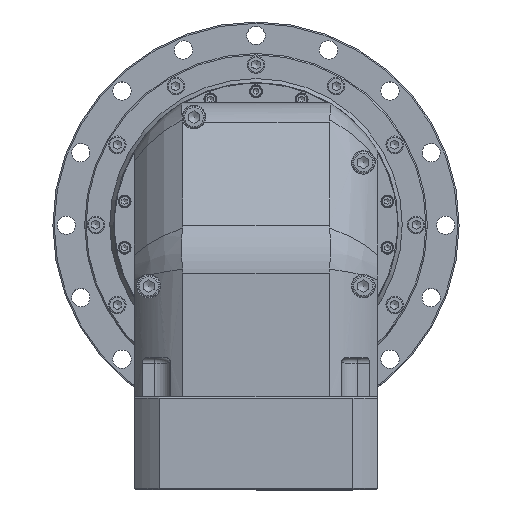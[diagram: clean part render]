
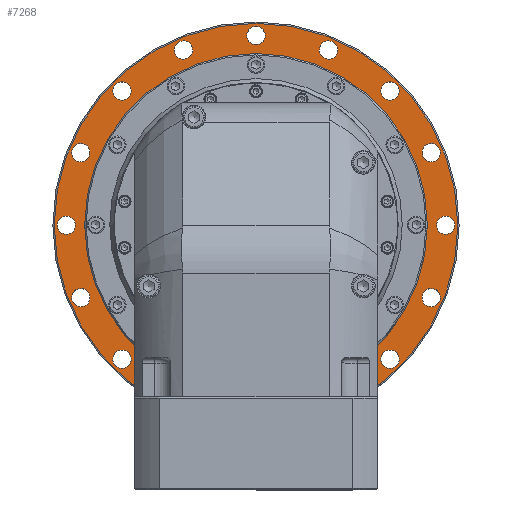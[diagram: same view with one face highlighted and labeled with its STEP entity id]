
A CAD part, top view. The second image highlights one B-rep face of the part: STEP entity #7268.
In plain terms, the highlighted planar face has unit normal (0, 0, 1).
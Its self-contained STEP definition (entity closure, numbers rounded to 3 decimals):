
#6511=CARTESIAN_POINT('',(-6.75,140.0,84.0));
#6512=VERTEX_POINT('',#6511);
#6513=CARTESIAN_POINT('',(0.0,140.0,84.0));
#6514=DIRECTION('',(0.0,0.0,-1.0));
#6515=DIRECTION('',(1.0,0.0,0.0));
#6516=AXIS2_PLACEMENT_3D('',#6513,#6514,#6515);
#6517=CIRCLE('',#6516,6.75);
#6518=EDGE_CURVE('',#6512,#6512,#6517,.T.);
#6539=CARTESIAN_POINT('',(-59.812,126.76,84.0));
#6540=VERTEX_POINT('',#6539);
#6541=CARTESIAN_POINT('',(-53.576,129.343,84.0));
#6542=DIRECTION('',(0.0,0.0,-1.0));
#6543=DIRECTION('',(0.924,0.383,0.0));
#6544=AXIS2_PLACEMENT_3D('',#6541,#6542,#6543);
#6545=CIRCLE('',#6544,6.75);
#6546=EDGE_CURVE('',#6540,#6540,#6545,.T.);
#6567=CARTESIAN_POINT('',(-103.768,94.222,84.0));
#6568=VERTEX_POINT('',#6567);
#6569=CARTESIAN_POINT('',(-98.995,98.995,84.0));
#6570=DIRECTION('',(0.0,0.0,-1.0));
#6571=DIRECTION('',(0.707,0.707,0.0));
#6572=AXIS2_PLACEMENT_3D('',#6569,#6570,#6571);
#6573=CIRCLE('',#6572,6.75);
#6574=EDGE_CURVE('',#6568,#6568,#6573,.T.);
#6595=CARTESIAN_POINT('',(-131.926,47.339,84.0));
#6596=VERTEX_POINT('',#6595);
#6597=CARTESIAN_POINT('',(-129.343,53.576,84.0));
#6598=DIRECTION('',(0.0,0.0,-1.0));
#6599=DIRECTION('',(0.383,0.924,0.0));
#6600=AXIS2_PLACEMENT_3D('',#6597,#6598,#6599);
#6601=CIRCLE('',#6600,6.75);
#6602=EDGE_CURVE('',#6596,#6596,#6601,.T.);
#6623=CARTESIAN_POINT('',(-140.0,-6.75,84.0));
#6624=VERTEX_POINT('',#6623);
#6625=CARTESIAN_POINT('',(-140.,0.,84.0));
#6626=DIRECTION('',(0.0,0.0,-1.0));
#6627=DIRECTION('',(0.0,1.0,0.0));
#6628=AXIS2_PLACEMENT_3D('',#6625,#6626,#6627);
#6629=CIRCLE('',#6628,6.75);
#6630=EDGE_CURVE('',#6624,#6624,#6629,.T.);
#6651=CARTESIAN_POINT('',(-126.76,-59.812,84.0));
#6652=VERTEX_POINT('',#6651);
#6653=CARTESIAN_POINT('',(-129.343,-53.576,84.0));
#6654=DIRECTION('',(0.0,0.0,-1.0));
#6655=DIRECTION('',(-0.383,0.924,0.0));
#6656=AXIS2_PLACEMENT_3D('',#6653,#6654,#6655);
#6657=CIRCLE('',#6656,6.75);
#6658=EDGE_CURVE('',#6652,#6652,#6657,.T.);
#6679=CARTESIAN_POINT('',(-94.222,-103.768,84.0));
#6680=VERTEX_POINT('',#6679);
#6681=CARTESIAN_POINT('',(-98.995,-98.995,84.0));
#6682=DIRECTION('',(0.0,0.0,-1.0));
#6683=DIRECTION('',(-0.707,0.707,0.0));
#6684=AXIS2_PLACEMENT_3D('',#6681,#6682,#6683);
#6685=CIRCLE('',#6684,6.75);
#6686=EDGE_CURVE('',#6680,#6680,#6685,.T.);
#6707=CARTESIAN_POINT('',(-47.339,-131.926,84.0));
#6708=VERTEX_POINT('',#6707);
#6709=CARTESIAN_POINT('',(-53.576,-129.343,84.0));
#6710=DIRECTION('',(0.0,0.0,-1.0));
#6711=DIRECTION('',(-0.924,0.383,0.0));
#6712=AXIS2_PLACEMENT_3D('',#6709,#6710,#6711);
#6713=CIRCLE('',#6712,6.75);
#6714=EDGE_CURVE('',#6708,#6708,#6713,.T.);
#6735=CARTESIAN_POINT('',(6.75,-140.0,84.0));
#6736=VERTEX_POINT('',#6735);
#6737=CARTESIAN_POINT('',(0.,-140.0,84.0));
#6738=DIRECTION('',(0.0,0.0,-1.0));
#6739=DIRECTION('',(-1.0,0.0,0.0));
#6740=AXIS2_PLACEMENT_3D('',#6737,#6738,#6739);
#6741=CIRCLE('',#6740,6.75);
#6742=EDGE_CURVE('',#6736,#6736,#6741,.T.);
#6763=CARTESIAN_POINT('',(59.812,-126.76,84.0));
#6764=VERTEX_POINT('',#6763);
#6765=CARTESIAN_POINT('',(53.576,-129.343,84.0));
#6766=DIRECTION('',(0.0,0.0,-1.0));
#6767=DIRECTION('',(-0.924,-0.383,0.0));
#6768=AXIS2_PLACEMENT_3D('',#6765,#6766,#6767);
#6769=CIRCLE('',#6768,6.75);
#6770=EDGE_CURVE('',#6764,#6764,#6769,.T.);
#6791=CARTESIAN_POINT('',(103.768,-94.222,84.0));
#6792=VERTEX_POINT('',#6791);
#6793=CARTESIAN_POINT('',(98.995,-98.995,84.0));
#6794=DIRECTION('',(0.0,0.0,-1.0));
#6795=DIRECTION('',(-0.707,-0.707,0.0));
#6796=AXIS2_PLACEMENT_3D('',#6793,#6794,#6795);
#6797=CIRCLE('',#6796,6.75);
#6798=EDGE_CURVE('',#6792,#6792,#6797,.T.);
#6819=CARTESIAN_POINT('',(131.926,-47.339,84.0));
#6820=VERTEX_POINT('',#6819);
#6821=CARTESIAN_POINT('',(129.343,-53.576,84.0));
#6822=DIRECTION('',(0.0,0.0,-1.0));
#6823=DIRECTION('',(-0.383,-0.924,0.0));
#6824=AXIS2_PLACEMENT_3D('',#6821,#6822,#6823);
#6825=CIRCLE('',#6824,6.75);
#6826=EDGE_CURVE('',#6820,#6820,#6825,.T.);
#6847=CARTESIAN_POINT('',(140.0,6.75,84.0));
#6848=VERTEX_POINT('',#6847);
#6849=CARTESIAN_POINT('',(140.,0.,84.0));
#6850=DIRECTION('',(0.0,0.0,-1.0));
#6851=DIRECTION('',(0.0,-1.0,0.0));
#6852=AXIS2_PLACEMENT_3D('',#6849,#6850,#6851);
#6853=CIRCLE('',#6852,6.75);
#6854=EDGE_CURVE('',#6848,#6848,#6853,.T.);
#6875=CARTESIAN_POINT('',(126.76,59.812,84.0));
#6876=VERTEX_POINT('',#6875);
#6877=CARTESIAN_POINT('',(129.343,53.576,84.0));
#6878=DIRECTION('',(0.0,0.0,-1.0));
#6879=DIRECTION('',(0.383,-0.924,0.0));
#6880=AXIS2_PLACEMENT_3D('',#6877,#6878,#6879);
#6881=CIRCLE('',#6880,6.75);
#6882=EDGE_CURVE('',#6876,#6876,#6881,.T.);
#6903=CARTESIAN_POINT('',(94.222,103.768,84.0));
#6904=VERTEX_POINT('',#6903);
#6905=CARTESIAN_POINT('',(98.995,98.995,84.0));
#6906=DIRECTION('',(0.0,0.0,-1.0));
#6907=DIRECTION('',(0.707,-0.707,0.0));
#6908=AXIS2_PLACEMENT_3D('',#6905,#6906,#6907);
#6909=CIRCLE('',#6908,6.75);
#6910=EDGE_CURVE('',#6904,#6904,#6909,.T.);
#6931=CARTESIAN_POINT('',(47.339,131.926,84.0));
#6932=VERTEX_POINT('',#6931);
#6933=CARTESIAN_POINT('',(53.576,129.343,84.0));
#6934=DIRECTION('',(0.0,0.0,-1.0));
#6935=DIRECTION('',(0.924,-0.383,0.0));
#6936=AXIS2_PLACEMENT_3D('',#6933,#6934,#6935);
#6937=CIRCLE('',#6936,6.75);
#6938=EDGE_CURVE('',#6932,#6932,#6937,.T.);
#6959=CARTESIAN_POINT('',(126.5,0.,84.0));
#6960=VERTEX_POINT('',#6959);
#6961=CARTESIAN_POINT('',(0.0,0.0,84.0));
#6962=DIRECTION('',(0.0,0.0,-1.0));
#6963=DIRECTION('',(-1.0,0.0,0.0));
#6964=AXIS2_PLACEMENT_3D('',#6961,#6962,#6963);
#6965=CIRCLE('',#6964,126.5);
#6966=EDGE_CURVE('',#6960,#6960,#6965,.T.);
#7201=CARTESIAN_POINT('',(0.0,0.0,84.0));
#7202=DIRECTION('',(0.0,0.0,-1.0));
#7203=DIRECTION('',(-1.0,0.0,0.0));
#7204=AXIS2_PLACEMENT_3D('',#7201,#7202,#7203);
#7205=PLANE('',#7204);
#7206=CARTESIAN_POINT('',(149.0,0.,84.0));
#7207=VERTEX_POINT('',#7206);
#7208=CARTESIAN_POINT('',(0.0,0.0,84.0));
#7209=DIRECTION('',(0.0,0.0,-1.0));
#7210=DIRECTION('',(-1.0,0.0,0.0));
#7211=AXIS2_PLACEMENT_3D('',#7208,#7209,#7210);
#7212=CIRCLE('',#7211,149.0);
#7213=EDGE_CURVE('',#7207,#7207,#7212,.T.);
#7214=ORIENTED_EDGE('',*,*,#7213,.F.);
#7215=EDGE_LOOP('',(#7214));
#7216=FACE_OUTER_BOUND('',#7215,.T.);
#7217=ORIENTED_EDGE('',*,*,#6966,.T.);
#7218=EDGE_LOOP('',(#7217));
#7219=FACE_BOUND('',#7218,.T.);
#7220=ORIENTED_EDGE('',*,*,#6518,.T.);
#7221=EDGE_LOOP('',(#7220));
#7222=FACE_BOUND('',#7221,.T.);
#7223=ORIENTED_EDGE('',*,*,#6546,.T.);
#7224=EDGE_LOOP('',(#7223));
#7225=FACE_BOUND('',#7224,.T.);
#7226=ORIENTED_EDGE('',*,*,#6574,.T.);
#7227=EDGE_LOOP('',(#7226));
#7228=FACE_BOUND('',#7227,.T.);
#7229=ORIENTED_EDGE('',*,*,#6602,.T.);
#7230=EDGE_LOOP('',(#7229));
#7231=FACE_BOUND('',#7230,.T.);
#7232=ORIENTED_EDGE('',*,*,#6630,.T.);
#7233=EDGE_LOOP('',(#7232));
#7234=FACE_BOUND('',#7233,.T.);
#7235=ORIENTED_EDGE('',*,*,#6658,.T.);
#7236=EDGE_LOOP('',(#7235));
#7237=FACE_BOUND('',#7236,.T.);
#7238=ORIENTED_EDGE('',*,*,#6686,.T.);
#7239=EDGE_LOOP('',(#7238));
#7240=FACE_BOUND('',#7239,.T.);
#7241=ORIENTED_EDGE('',*,*,#6714,.T.);
#7242=EDGE_LOOP('',(#7241));
#7243=FACE_BOUND('',#7242,.T.);
#7244=ORIENTED_EDGE('',*,*,#6742,.T.);
#7245=EDGE_LOOP('',(#7244));
#7246=FACE_BOUND('',#7245,.T.);
#7247=ORIENTED_EDGE('',*,*,#6770,.T.);
#7248=EDGE_LOOP('',(#7247));
#7249=FACE_BOUND('',#7248,.T.);
#7250=ORIENTED_EDGE('',*,*,#6798,.T.);
#7251=EDGE_LOOP('',(#7250));
#7252=FACE_BOUND('',#7251,.T.);
#7253=ORIENTED_EDGE('',*,*,#6826,.T.);
#7254=EDGE_LOOP('',(#7253));
#7255=FACE_BOUND('',#7254,.T.);
#7256=ORIENTED_EDGE('',*,*,#6854,.T.);
#7257=EDGE_LOOP('',(#7256));
#7258=FACE_BOUND('',#7257,.T.);
#7259=ORIENTED_EDGE('',*,*,#6882,.T.);
#7260=EDGE_LOOP('',(#7259));
#7261=FACE_BOUND('',#7260,.T.);
#7262=ORIENTED_EDGE('',*,*,#6910,.T.);
#7263=EDGE_LOOP('',(#7262));
#7264=FACE_BOUND('',#7263,.T.);
#7265=ORIENTED_EDGE('',*,*,#6938,.T.);
#7266=EDGE_LOOP('',(#7265));
#7267=FACE_BOUND('',#7266,.T.);
#7268=ADVANCED_FACE('',(#7216,#7219,#7222,#7225,#7228,#7231,#7234,#7237,#7240,#7243,#7246,#7249,#7252,#7255,#7258,#7261,#7264,#7267),#7205,.F.);
